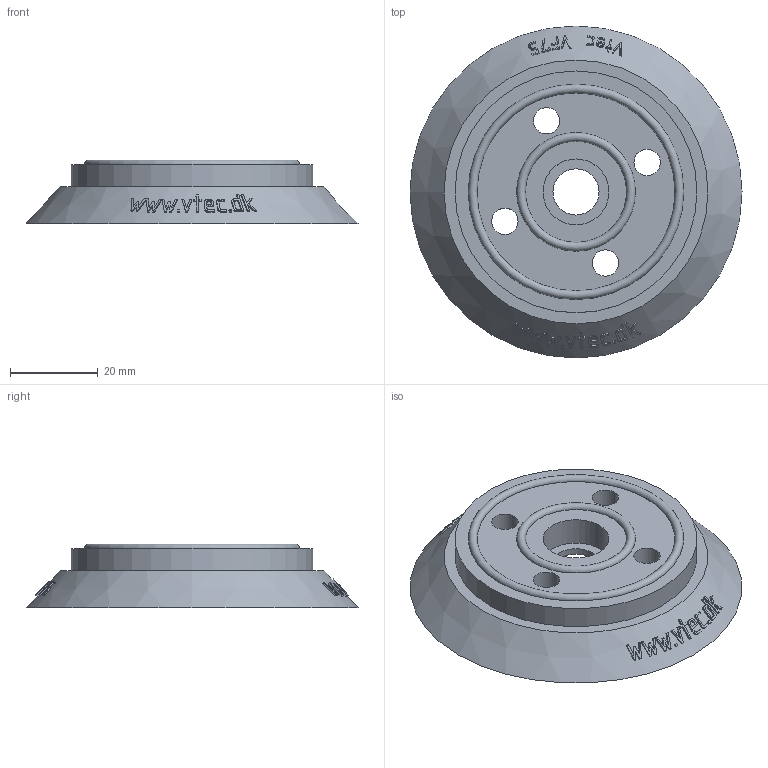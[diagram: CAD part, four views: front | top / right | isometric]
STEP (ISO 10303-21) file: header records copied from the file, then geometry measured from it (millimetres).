
FILE_DESCRIPTION( ( 'Unknown' ), '1' );
FILE_NAME( 'C:/Documents and Settings/owner/官帕 拳搁/MISUMI/PAD/VF/VF75-N.stp', 'Unknown', ( 'Unknown' ), ( 'Unknown' ), 'XStep 1.0', 'Unknown', ' ' );
FILE_SCHEMA( ( 'automotive_design' ) );
Length unit declared in the file: millimetre
Products named in the file (2): Assem1; 1
Bounding box: 75.5 x 75.5 x 14.5 mm (x, y, z)
Volume: 51988.8 mm3; surface area: 24659 mm2
Topology: 2 solids, 2 shells, 488 faces, 1288 edges, 858 vertices
Faces by surface type: plane 254, bspline 122, cone 48, cylinder 46, extrusion 14, torus 4
Full cylindrical faces by diameter (mm): 6 x8, 10.5 x2, 15 x2, 55 x2
Entity records: 14232 total; most frequent: CARTESIAN_POINT 6846, ORIENTED_EDGE 1250, DIRECTION 878, EDGE_CURVE 625, VERTEX_POINT 421, AXIS2_PLACEMENT_3D 357, B_SPLINE_CURVE_WITH_KNOTS 296, EDGE_LOOP 292
